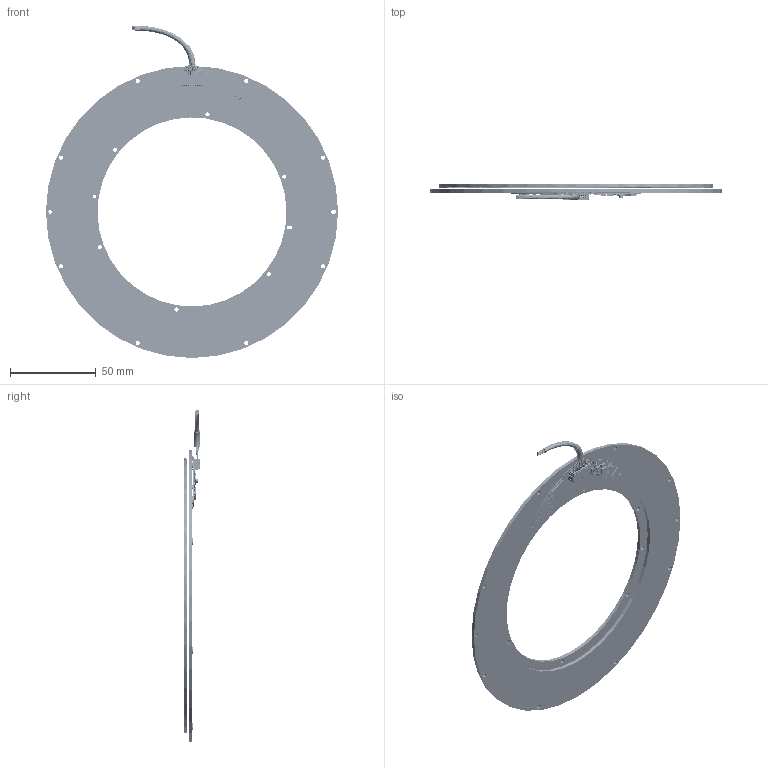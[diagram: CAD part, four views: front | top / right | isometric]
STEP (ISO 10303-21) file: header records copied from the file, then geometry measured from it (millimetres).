
FILE_DESCRIPTION (( 'STEP AP214' ), '1' );
FILE_NAME ('VLX-170.STEP', '2025-03-24T07:41:32', ( '' ), ( '' ), 'SwSTEP 2.0', 'SolidWorks 2022', '' );
FILE_SCHEMA (( 'AUTOMOTIVE_DESIGN' ));
Length unit declared in the file: millimetre
Products named in the file (8): DF13-10P-1.25H; VLX-170; VLX-60-QR Cable; PB-00456-00; DF13-10S-1.25C; KMR711NGULCLFS; PB-00148; PB-00149
Assembly tree (7 placements, depth 2):
  VLX-170
    PB-00148
    PB-00456-00
    PB-00149
    KMR711NGULCLFS
    DF13-10P-1.25H
    DF13-10S-1.25C
    VLX-60-QR Cable
Bounding box: 170 x 9.37 x 193.2 mm (x, y, z)
Volume: 44627.2 mm3; surface area: 52342.2 mm2
Topology: 121 solids, 121 shells, 9842 faces, 24807 edges, 16751 vertices
Faces by surface type: plane 6123, cylinder 3396, bspline 308, cone 15
Entity records: 450562 total; most frequent: CARTESIAN_POINT 109558, DIRECTION 49730, ORIENTED_EDGE 49614, EDGE_CURVE 24807, LINE 16796, VECTOR 16796, VERTEX_POINT 16751, AXIS2_PLACEMENT_3D 16467
